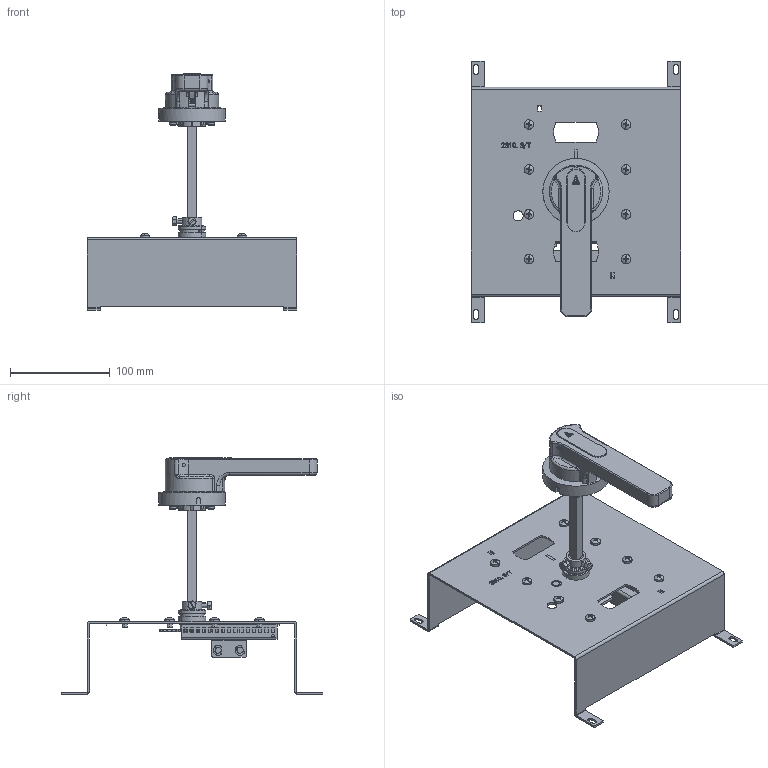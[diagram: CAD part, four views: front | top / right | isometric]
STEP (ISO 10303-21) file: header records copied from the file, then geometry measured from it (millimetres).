
FILE_DESCRIPTION(/* description */ (''),/* implementation_level */ '2;1');
FILE_NAME(/* name */ '_model1.stp',/* time_stamp */ '2025-09-24T10:09:54+08:00',/* author */ (''),/* organization */ (''),/* preprocessor_version */ 'ST-DEVELOPER v16',/* originating_system */ 'SIEMENS PLM Software NX 10.0',/* authorisation */ '');
FILE_SCHEMA (('AUTOMOTIVE_DESIGN { 1 0 10303 214 3 1 1 1 }'));
Products named in the file (1): midi514C04092ft6
Bounding box: 210 x 262 x 236.9 mm (x, y, z)
Volume: 194093 mm3; surface area: 240122.9 mm2
Topology: 24 solids, 25 shells, 1752 faces, 4642 edges, 2927 vertices
Faces by surface type: plane 914, cylinder 472, bspline 262, cone 63, torus 25, sphere 16
Full cylindrical faces by diameter (mm): 2.7 x2, 3 x3, 3.5 x8, 3.8 x3, 4 x5, 4.18 x2, 4.4 x2, 4.542 x1, 8 x2, 23.5 x1, 66.5 x1
Entity records: 83944 total; most frequent: CARTESIAN_POINT 42274, ORIENTED_EDGE 8940, DIRECTION 7938, EDGE_CURVE 4470, VERTEX_POINT 2891, AXIS2_PLACEMENT_3D 2667, LINE 2604, VECTOR 2604
